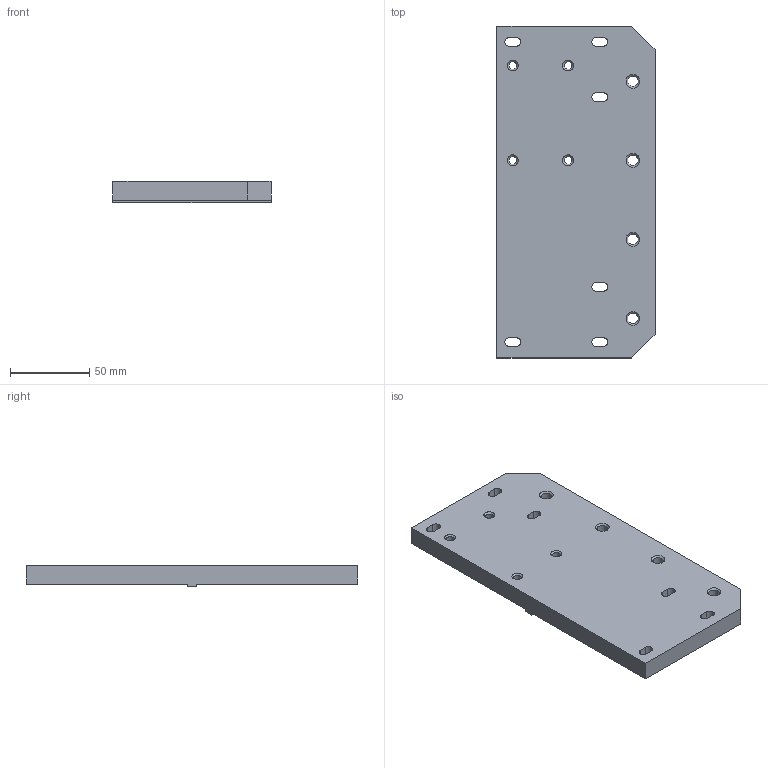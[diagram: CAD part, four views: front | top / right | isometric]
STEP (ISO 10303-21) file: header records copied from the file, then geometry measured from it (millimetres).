
FILE_DESCRIPTION(('STEP AP203'), '1');
FILE_NAME('ÒÏÏÔ1801.01.03.00.010 - Ïëîùàäêà îïîðíàÿ', '', ('UNSPECIFIED'), ('UNSPECIFIED'), 'C3D Converter', 'C3D Toolkit', '');
FILE_SCHEMA(('CONFIG_CONTROL_DESIGN'));
Length unit declared in the file: millimetre
Products named in the file (1): ТППФ1801.01.03.00.010
Bounding box: 100 x 210 x 13.5 mm (x, y, z)
Volume: 243968.1 mm3; surface area: 51572 mm2
Topology: 1 solids, 1 shells, 60 faces, 158 edges, 100 vertices
Faces by surface type: plane 24, cylinder 20, cone 16
Full cylindrical faces by diameter (mm): 4.917 x4, 6.647 x4
Entity records: 2306 total; most frequent: DIRECTION 312, CARTESIAN_POINT 295, ORIENTED_EDGE 268, EDGE_CURVE 134, AXIS2_PLACEMENT_3D 117, EDGE_LOOP 112, VERTEX_POINT 100, LINE 78
